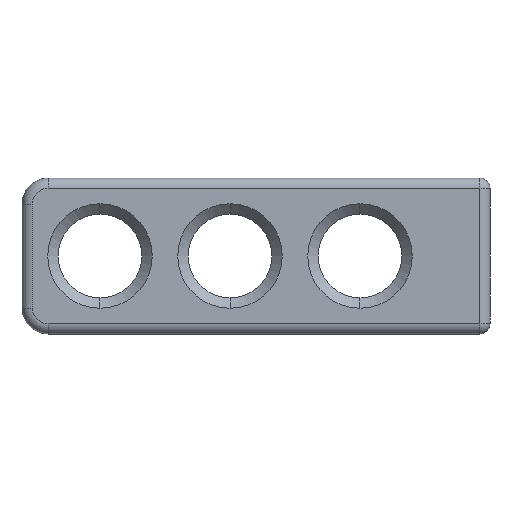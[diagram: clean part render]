
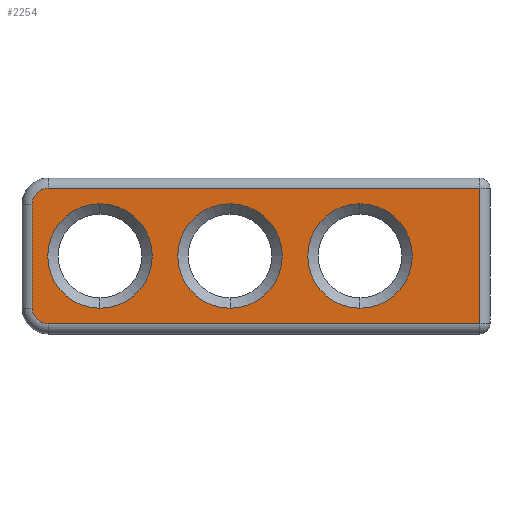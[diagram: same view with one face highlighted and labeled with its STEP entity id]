
A CAD part, left-side view. The second image highlights one B-rep face of the part: STEP entity #2254.
In plain terms, the highlighted planar face has unit normal (-1, 0, 0).
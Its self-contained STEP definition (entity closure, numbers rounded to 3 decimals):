
#11 = VERTEX_POINT ( 'NONE', #1418 ) ;
#43 = DIRECTION ( 'NONE',  ( 1., 0., 0. ) ) ;
#46 = VERTEX_POINT ( 'NONE', #1040 ) ;
#47 = CIRCLE ( 'NONE', #651, 10.05 ) ;
#101 = DIRECTION ( 'NONE',  ( 0., -1., 0. ) ) ;
#115 = FACE_OUTER_BOUND ( 'NONE', #1144, .T. ) ;
#118 = CARTESIAN_POINT ( 'NONE',  ( 0., 85., 13. ) ) ;
#125 = PLANE ( 'NONE',  #2370 ) ;
#169 = AXIS2_PLACEMENT_3D ( 'NONE', #1490, #1497, #1298 ) ;
#188 = DIRECTION ( 'NONE',  ( 0., 1., 0. ) ) ;
#209 = VERTEX_POINT ( 'NONE', #1069 ) ;
#214 = CARTESIAN_POINT ( 'NONE',  ( 0., 50., 0. ) ) ;
#220 = EDGE_CURVE ( 'NONE', #475, #2007, #47, .T. ) ;
#225 = ORIENTED_EDGE ( 'NONE', *, *, #606, .T. ) ;
#240 = VECTOR ( 'NONE', #1284, 1000. ) ;
#261 = ORIENTED_EDGE ( 'NONE', *, *, #744, .T. ) ;
#264 = CARTESIAN_POINT ( 'NONE',  ( 0., 90., -13. ) ) ;
#306 = CARTESIAN_POINT ( 'NONE',  ( 0., 90., 15. ) ) ;
#311 = AXIS2_PLACEMENT_3D ( 'NONE', #2099, #445, #1878 ) ;
#317 = DIRECTION ( 'NONE',  ( 0., 1., 0. ) ) ;
#336 = CARTESIAN_POINT ( 'NONE',  ( 0., 75., 10.05 ) ) ;
#347 = AXIS2_PLACEMENT_3D ( 'NONE', #876, #2174, #1059 ) ;
#349 = EDGE_LOOP ( 'NONE', ( #1181, #225 ) ) ;
#391 = EDGE_CURVE ( 'NONE', #11, #960, #716, .T. ) ;
#399 = ORIENTED_EDGE ( 'NONE', *, *, #220, .T. ) ;
#430 = DIRECTION ( 'NONE',  ( 1., 0., 0. ) ) ;
#441 = CIRCLE ( 'NONE', #642, 10.05 ) ;
#445 = DIRECTION ( 'NONE',  ( -1., 0., 0. ) ) ;
#472 = CARTESIAN_POINT ( 'NONE',  ( 0., 25., 0. ) ) ;
#475 = VERTEX_POINT ( 'NONE', #741 ) ;
#482 = CARTESIAN_POINT ( 'NONE',  ( 0., 25., 0. ) ) ;
#543 = FACE_BOUND ( 'NONE', #1672, .T. ) ;
#545 = EDGE_CURVE ( 'NONE', #1266, #1713, #975, .T. ) ;
#581 = EDGE_CURVE ( 'NONE', #209, #1663, #441, .T. ) ;
#591 = CIRCLE ( 'NONE', #1983, 3. ) ;
#594 = CIRCLE ( 'NONE', #311, 3. ) ;
#606 = EDGE_CURVE ( 'NONE', #1713, #1266, #2355, .T. ) ;
#642 = AXIS2_PLACEMENT_3D ( 'NONE', #214, #43, #188 ) ;
#651 = AXIS2_PLACEMENT_3D ( 'NONE', #472, #430, #317 ) ;
#654 = DIRECTION ( 'NONE',  ( 0., 1., 0. ) ) ;
#665 = DIRECTION ( 'NONE',  ( -1., 0., 0. ) ) ;
#716 = LINE ( 'NONE', #1484, #240 ) ;
#741 = CARTESIAN_POINT ( 'NONE',  ( 0., 25., -10.05 ) ) ;
#744 = EDGE_CURVE ( 'NONE', #770, #11, #998, .T. ) ;
#760 = AXIS2_PLACEMENT_3D ( 'NONE', #1758, #1938, #2098 ) ;
#770 = VERTEX_POINT ( 'NONE', #817 ) ;
#792 = ORIENTED_EDGE ( 'NONE', *, *, #1366, .T. ) ;
#817 = CARTESIAN_POINT ( 'NONE',  ( 0., 2., -13. ) ) ;
#847 = DIRECTION ( 'NONE',  ( 1., 0., 0. ) ) ;
#876 = CARTESIAN_POINT ( 'NONE',  ( 0., 50., 0. ) ) ;
#883 = DIRECTION ( 'NONE',  ( 0., 0., -1. ) ) ;
#916 = LINE ( 'NONE', #264, #1893 ) ;
#960 = VERTEX_POINT ( 'NONE', #118 ) ;
#975 = CIRCLE ( 'NONE', #169, 10.05 ) ;
#980 = VECTOR ( 'NONE', #883, 1000. ) ;
#986 = VERTEX_POINT ( 'NONE', #1310 ) ;
#998 = LINE ( 'NONE', #1195, #1448 ) ;
#1016 = CARTESIAN_POINT ( 'NONE',  ( 0., 50., 10.05 ) ) ;
#1037 = CARTESIAN_POINT ( 'NONE',  ( 0., 75., -10.05 ) ) ;
#1040 = CARTESIAN_POINT ( 'NONE',  ( 0., 88., 10. ) ) ;
#1045 = CARTESIAN_POINT ( 'NONE',  ( 0., 88., -10. ) ) ;
#1059 = DIRECTION ( 'NONE',  ( 0., 1., 0. ) ) ;
#1069 = CARTESIAN_POINT ( 'NONE',  ( 0., 50., -10.05 ) ) ;
#1075 = CARTESIAN_POINT ( 'NONE',  ( 0., 25., 10.05 ) ) ;
#1114 = EDGE_CURVE ( 'NONE', #986, #770, #916, .T. ) ;
#1135 = EDGE_LOOP ( 'NONE', ( #2255, #399 ) ) ;
#1144 = EDGE_LOOP ( 'NONE', ( #2244, #1784, #792, #1232, #261, #1168 ) ) ;
#1168 = ORIENTED_EDGE ( 'NONE', *, *, #391, .T. ) ;
#1173 = DIRECTION ( 'NONE',  ( 0., 0., 1. ) ) ;
#1181 = ORIENTED_EDGE ( 'NONE', *, *, #545, .T. ) ;
#1195 = CARTESIAN_POINT ( 'NONE',  ( 0., 2., 15. ) ) ;
#1232 = ORIENTED_EDGE ( 'NONE', *, *, #1114, .T. ) ;
#1266 = VERTEX_POINT ( 'NONE', #336 ) ;
#1284 = DIRECTION ( 'NONE',  ( 0., 1., 0. ) ) ;
#1298 = DIRECTION ( 'NONE',  ( 0., 1., 0. ) ) ;
#1310 = CARTESIAN_POINT ( 'NONE',  ( 0., 85., -13. ) ) ;
#1362 = AXIS2_PLACEMENT_3D ( 'NONE', #482, #1759, #654 ) ;
#1366 = EDGE_CURVE ( 'NONE', #1919, #986, #594, .T. ) ;
#1416 = ORIENTED_EDGE ( 'NONE', *, *, #1945, .T. ) ;
#1418 = CARTESIAN_POINT ( 'NONE',  ( 0., 2., 13. ) ) ;
#1448 = VECTOR ( 'NONE', #1173, 1000. ) ;
#1484 = CARTESIAN_POINT ( 'NONE',  ( 0., 85., 13. ) ) ;
#1487 = LINE ( 'NONE', #1629, #980 ) ;
#1490 = CARTESIAN_POINT ( 'NONE',  ( 0., 75., 0. ) ) ;
#1497 = DIRECTION ( 'NONE',  ( 1., 0., 0. ) ) ;
#1585 = FACE_BOUND ( 'NONE', #1135, .T. ) ;
#1608 = CIRCLE ( 'NONE', #347, 10.05 ) ;
#1629 = CARTESIAN_POINT ( 'NONE',  ( 0., 88., 15. ) ) ;
#1663 = VERTEX_POINT ( 'NONE', #1016 ) ;
#1672 = EDGE_LOOP ( 'NONE', ( #1416, #1797 ) ) ;
#1713 = VERTEX_POINT ( 'NONE', #1037 ) ;
#1758 = CARTESIAN_POINT ( 'NONE',  ( 0., 75., 0. ) ) ;
#1759 = DIRECTION ( 'NONE',  ( 1., 0., 0. ) ) ;
#1767 = CARTESIAN_POINT ( 'NONE',  ( 0., 85., 10. ) ) ;
#1784 = ORIENTED_EDGE ( 'NONE', *, *, #1987, .T. ) ;
#1797 = ORIENTED_EDGE ( 'NONE', *, *, #581, .T. ) ;
#1878 = DIRECTION ( 'NONE',  ( 0., 1., 0. ) ) ;
#1893 = VECTOR ( 'NONE', #101, 1000. ) ;
#1919 = VERTEX_POINT ( 'NONE', #1045 ) ;
#1938 = DIRECTION ( 'NONE',  ( 1., 0., 0. ) ) ;
#1945 = EDGE_CURVE ( 'NONE', #1663, #209, #1608, .T. ) ;
#1956 = DIRECTION ( 'NONE',  ( 0., 1., 0. ) ) ;
#1983 = AXIS2_PLACEMENT_3D ( 'NONE', #1767, #665, #1956 ) ;
#1987 = EDGE_CURVE ( 'NONE', #46, #1919, #1487, .T. ) ;
#2007 = VERTEX_POINT ( 'NONE', #1075 ) ;
#2010 = FACE_BOUND ( 'NONE', #349, .T. ) ;
#2075 = CIRCLE ( 'NONE', #1362, 10.05 ) ;
#2098 = DIRECTION ( 'NONE',  ( 0., 1., 0. ) ) ;
#2099 = CARTESIAN_POINT ( 'NONE',  ( 0., 85., -10. ) ) ;
#2150 = DIRECTION ( 'NONE',  ( 0., 1., 0. ) ) ;
#2174 = DIRECTION ( 'NONE',  ( 1., 0., 0. ) ) ;
#2235 = EDGE_CURVE ( 'NONE', #2007, #475, #2075, .T. ) ;
#2244 = ORIENTED_EDGE ( 'NONE', *, *, #2251, .T. ) ;
#2251 = EDGE_CURVE ( 'NONE', #960, #46, #591, .T. ) ;
#2254 = ADVANCED_FACE ( 'NONE', ( #2010, #543, #1585, #115 ), #125, .F. ) ;
#2255 = ORIENTED_EDGE ( 'NONE', *, *, #2235, .T. ) ;
#2355 = CIRCLE ( 'NONE', #760, 10.05 ) ;
#2370 = AXIS2_PLACEMENT_3D ( 'NONE', #306, #847, #2150 ) ;
